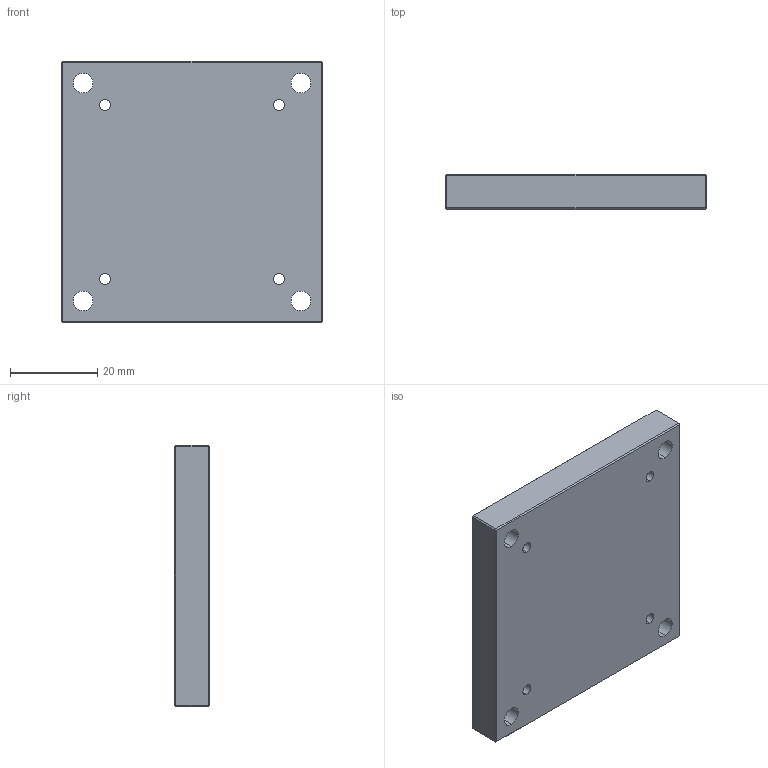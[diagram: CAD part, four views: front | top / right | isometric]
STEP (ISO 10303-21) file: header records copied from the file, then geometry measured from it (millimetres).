
FILE_DESCRIPTION (( 'STEP AP214' ), '1' );
FILE_NAME ('揤萇す怢蛌諉啣.STEP', '2026-05-08T07:02:49', ( '' ), ( '' ), 'SwSTEP 2.0', 'SolidWorks 2024', '' );
FILE_SCHEMA (( 'AUTOMOTIVE_DESIGN' ));
Length unit declared in the file: millimetre
Products named in the file (1): 压电平台转接板
Bounding box: 60 x 8 x 60 mm (x, y, z)
Volume: 27478.8 mm3; surface area: 9769.3 mm2
Topology: 1 solids, 1 shells, 54 faces, 120 edges, 72 vertices
Faces by surface type: plane 30, cylinder 24
Entity records: 1535 total; most frequent: DIRECTION 278, CARTESIAN_POINT 247, ORIENTED_EDGE 240, EDGE_CURVE 120, AXIS2_PLACEMENT_3D 103, EDGE_LOOP 74, LINE 72, VECTOR 72
